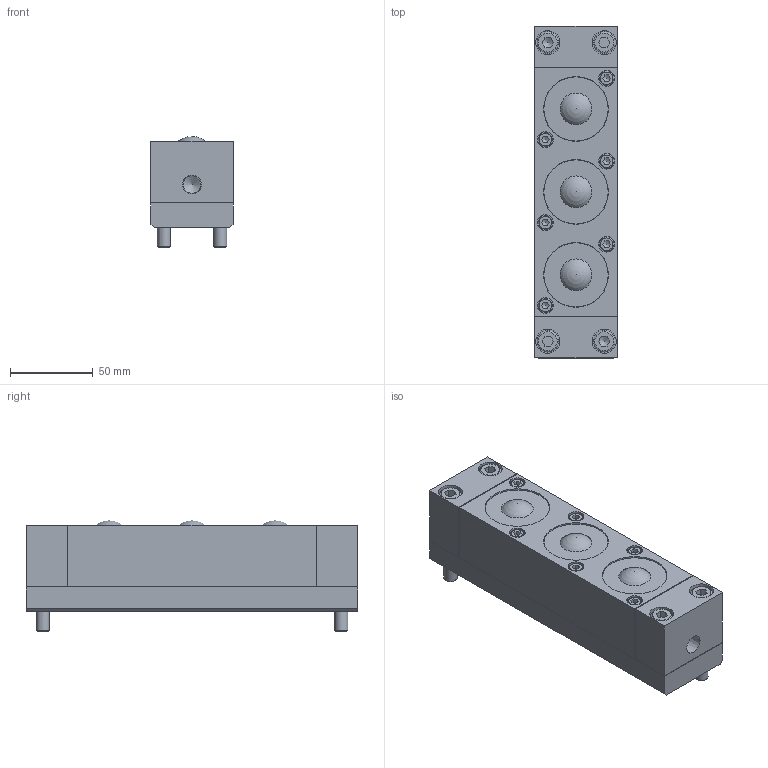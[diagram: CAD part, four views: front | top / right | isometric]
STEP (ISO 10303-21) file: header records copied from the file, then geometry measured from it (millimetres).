
FILE_DESCRIPTION(/* description */ (''),/* implementation_level */ '2;1');
FILE_NAME(/* name */ 'Z:\34-Tei\01-web 3Dデータ\41-ISR-50S型\ISR-50S-200-A.stp',/* time_stamp */ '2015-01-16T09:36:34+09:00',/* author */ ('yamaki'),/* organization */ (''),/* preprocessor_version */ 'ST-DEVELOPER v15.6',/* originating_system */ 'Autodesk Inventor 2015',/* authorisation */ '');
FILE_SCHEMA (('AUTOMOTIVE_DESIGN { 1 0 10303 214 3 1 1 }'));
Length unit declared in the file: millimetre
Products named in the file (5): 4200AT-01-200; 六角穴付きボルト-M8x55; 4200AT-00; 4200AT-03; ISR-50S
Bounding box: 49.5 x 200 x 67 mm (x, y, z)
Volume: 488909 mm3; surface area: 112557 mm2
Topology: 7 solids, 7 shells, 227 faces, 477 edges, 302 vertices
Faces by surface type: plane 154, cylinder 40, cone 18, torus 12, sphere 3
Full cylindrical faces by diameter (mm): 8 x2, 8.5 x6, 9 x2, 9.5 x6, 10.5 x1, 13 x4, 14.5 x4, 31.7 x3, 38.5 x3, 39 x3, 42 x6
Entity records: 4895 total; most frequent: CARTESIAN_POINT 872, DIRECTION 784, ORIENTED_EDGE 682, EDGE_CURVE 341, AXIS2_PLACEMENT_3D 283, EDGE_LOOP 280, VERTEX_POINT 245, LINE 218
